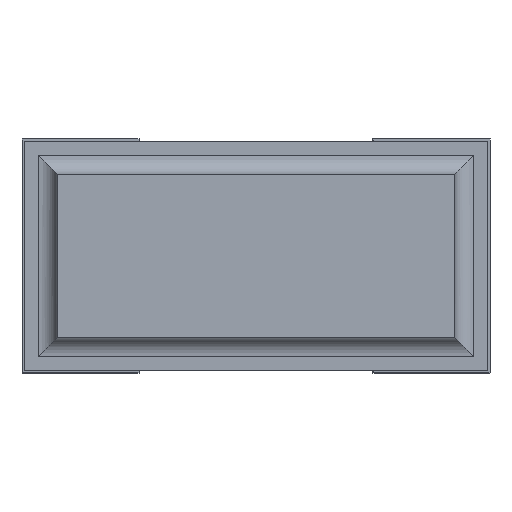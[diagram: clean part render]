
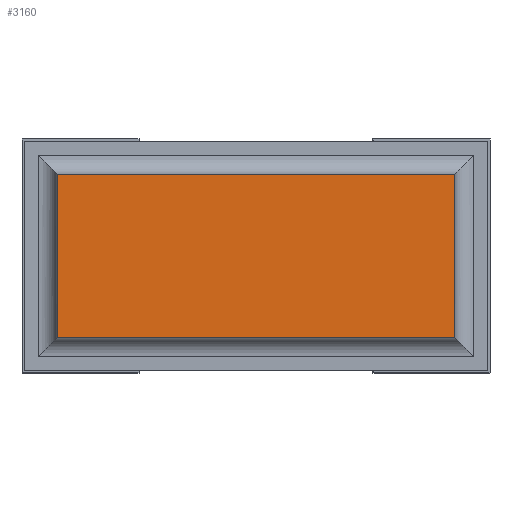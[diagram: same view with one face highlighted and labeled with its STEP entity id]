
A CAD part, front view. The second image highlights one B-rep face of the part: STEP entity #3160.
In plain terms, the highlighted planar face has unit normal (0, -1, 0).
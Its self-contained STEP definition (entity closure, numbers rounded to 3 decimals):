
#50=PLANE('',#3392);
#210=FACE_OUTER_BOUND('',#407,.T.);
#407=EDGE_LOOP('',(#2247,#2248,#2249,#2250));
#609=LINE('',#4523,#1021);
#617=LINE('',#4546,#1029);
#625=LINE('',#4559,#1037);
#626=LINE('',#4561,#1038);
#1021=VECTOR('',#3635,10.);
#1029=VECTOR('',#3653,10.);
#1037=VECTOR('',#3667,10.);
#1038=VECTOR('',#3670,10.);
#1475=VERTEX_POINT('',#4519);
#1476=VERTEX_POINT('',#4521);
#1485=VERTEX_POINT('',#4543);
#1486=VERTEX_POINT('',#4545);
#1765=EDGE_CURVE('',#1475,#1476,#609,.T.);
#1775=EDGE_CURVE('',#1485,#1486,#617,.T.);
#1783=EDGE_CURVE('',#1475,#1485,#625,.T.);
#1784=EDGE_CURVE('',#1486,#1476,#626,.T.);
#2247=ORIENTED_EDGE('',*,*,#1775,.F.);
#2248=ORIENTED_EDGE('',*,*,#1783,.F.);
#2249=ORIENTED_EDGE('',*,*,#1765,.T.);
#2250=ORIENTED_EDGE('',*,*,#1784,.F.);
#3160=ADVANCED_FACE('',(#210),#50,.T.);
#3392=AXIS2_PLACEMENT_3D('',#4560,#3668,#3669);
#3635=DIRECTION('',(0.,0.,-1.));
#3653=DIRECTION('',(0.,0.,-1.));
#3667=DIRECTION('',(1.,0.,0.));
#3668=DIRECTION('center_axis',(0.,-1.,0.));
#3669=DIRECTION('ref_axis',(0.,0.,-1.));
#3670=DIRECTION('',(-1.,0.,0.));
#4519=CARTESIAN_POINT('',(0.075,0.,0.425));
#4521=CARTESIAN_POINT('',(0.075,0.,0.075));
#4523=CARTESIAN_POINT('',(0.075,0.,0.425));
#4543=CARTESIAN_POINT('',(0.925,0.,0.425));
#4545=CARTESIAN_POINT('',(0.925,0.,0.075));
#4546=CARTESIAN_POINT('',(0.925,0.,0.425));
#4559=CARTESIAN_POINT('',(0.075,0.,0.425));
#4560=CARTESIAN_POINT('Origin',(0.926,0.,
0.25));
#4561=CARTESIAN_POINT('',(0.925,0.,0.075));
